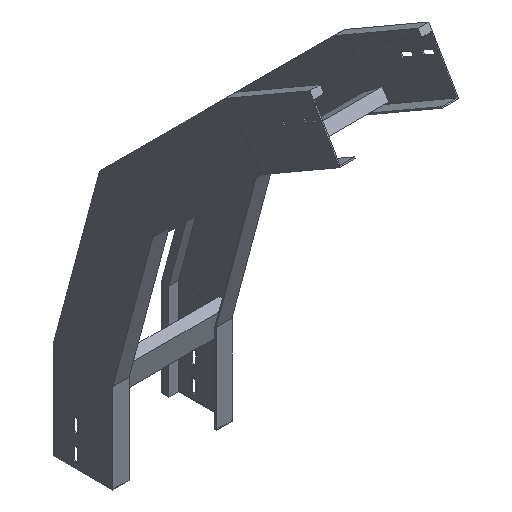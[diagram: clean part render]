
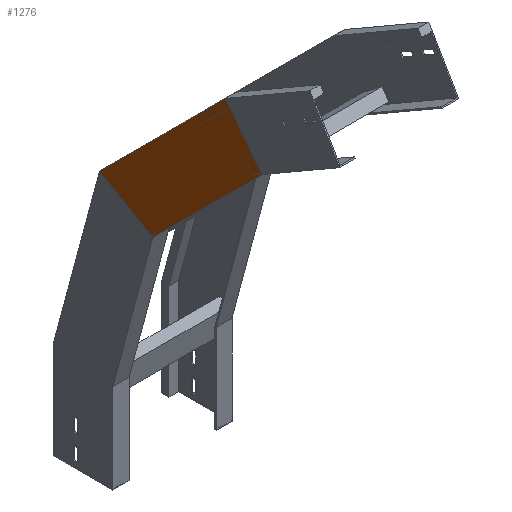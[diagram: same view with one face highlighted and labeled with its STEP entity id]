
A CAD part, isometric view. The second image highlights one B-rep face of the part: STEP entity #1276.
In plain terms, the highlighted planar face has unit normal (-1, 0, 0) as drawn and (1, 0, 0) by its records, which use the part's own axes.
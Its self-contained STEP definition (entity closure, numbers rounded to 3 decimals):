
#71 = CARTESIAN_POINT ( 'NONE',  ( 0., 100., 163.165 ) ) ;
#104 = LINE ( 'NONE', #1527, #518 ) ;
#176 = DIRECTION ( 'NONE',  ( 0., -0.866, -0.5 ) ) ;
#281 = VERTEX_POINT ( 'NONE', #1449 ) ;
#307 = CARTESIAN_POINT ( 'NONE',  ( 0., 0., 150. ) ) ;
#325 = EDGE_CURVE ( 'NONE', #281, #1067, #1221, .T. ) ;
#440 = DIRECTION ( 'NONE',  ( 0., -0.259, 0.966 ) ) ;
#454 = CARTESIAN_POINT ( 'NONE',  ( 0., -128.356, 364.771 ) ) ;
#518 = VECTOR ( 'NONE', #1389, 1000. ) ;
#676 = ORIENTED_EDGE ( 'NONE', *, *, #1646, .T. ) ;
#705 = VECTOR ( 'NONE', #440, 1000. ) ;
#711 = VECTOR ( 'NONE', #176, 1000. ) ;
#753 = ORIENTED_EDGE ( 'NONE', *, *, #325, .T. ) ;
#766 = EDGE_CURVE ( 'NONE', #1148, #1017, #104, .T. ) ;
#797 = DIRECTION ( 'NONE',  ( 0., -0.259, 0.966 ) ) ;
#828 = LINE ( 'NONE', #1501, #705 ) ;
#848 = AXIS2_PLACEMENT_3D ( 'NONE', #1199, #1440, #1181 ) ;
#1017 = VERTEX_POINT ( 'NONE', #307 ) ;
#1067 = VERTEX_POINT ( 'NONE', #1085 ) ;
#1070 = ORIENTED_EDGE ( 'NONE', *, *, #1260, .F. ) ;
#1072 = CARTESIAN_POINT ( 'NONE',  ( 0., 3.774, 135.915 ) ) ;
#1085 = CARTESIAN_POINT ( 'NONE',  ( 0., -67.034, 400.175 ) ) ;
#1148 = VERTEX_POINT ( 'NONE', #71 ) ;
#1181 = DIRECTION ( 'NONE',  ( 0., 0., -1. ) ) ;
#1188 = LINE ( 'NONE', #1072, #1355 ) ;
#1199 = CARTESIAN_POINT ( 'NONE',  ( 0., 3.774, 135.915 ) ) ;
#1221 = LINE ( 'NONE', #454, #711 ) ;
#1260 = EDGE_CURVE ( 'NONE', #1017, #1067, #1188, .T. ) ;
#1276 = ADVANCED_FACE ( 'NONE', ( #1541 ), #1674, .T. ) ;
#1289 = EDGE_LOOP ( 'NONE', ( #676, #753, #1070, #1391 ) ) ;
#1355 = VECTOR ( 'NONE', #797, 1000. ) ;
#1389 = DIRECTION ( 'NONE',  ( 0., -0.991, -0.131 ) ) ;
#1391 = ORIENTED_EDGE ( 'NONE', *, *, #766, .F. ) ;
#1440 = DIRECTION ( 'NONE',  ( 1., 0., 0. ) ) ;
#1449 = CARTESIAN_POINT ( 'NONE',  ( 0., 22.623, 451.939 ) ) ;
#1501 = CARTESIAN_POINT ( 'NONE',  ( 0., 100.367, 161.797 ) ) ;
#1527 = CARTESIAN_POINT ( 'NONE',  ( 0., -19.411, 147.444 ) ) ;
#1541 = FACE_OUTER_BOUND ( 'NONE', #1289, .T. ) ;
#1646 = EDGE_CURVE ( 'NONE', #1148, #281, #828, .T. ) ;
#1674 = PLANE ( 'NONE',  #848 ) ;
